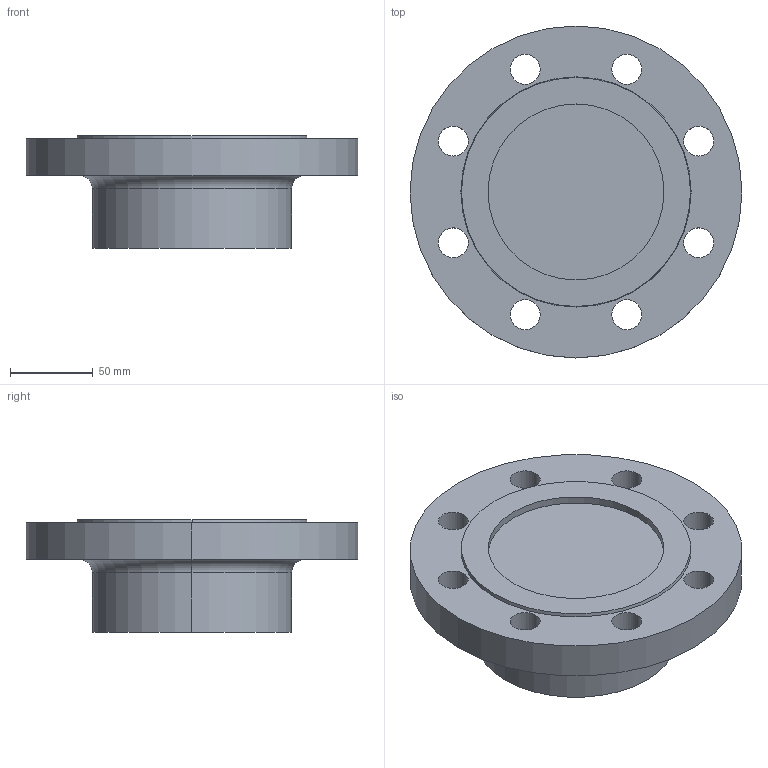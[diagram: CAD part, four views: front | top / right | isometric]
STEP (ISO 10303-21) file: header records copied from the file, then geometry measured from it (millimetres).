
FILE_DESCRIPTION (( 'STEP AP214' ), '1' );
FILE_NAME ('PN40 DN80 Type 21(i) - Type G Face.STEP', '2019-01-01T19:33:28', ( '' ), ( '' ), 'SwSTEP 2.0', 'SolidWorks 2019', '' );
FILE_SCHEMA (( 'AUTOMOTIVE_DESIGN' ));
Length unit declared in the file: millimetre
Products named in the file (1): PN40 DN80 Type 21(i) - Type G Face
Bounding box: 200 x 200 x 68 mm (x, y, z)
Volume: 1139680.2 mm3; surface area: 100085.5 mm2
Topology: 1 solids, 1 shells, 31 faces, 76 edges, 50 vertices
Faces by surface type: cylinder 22, plane 5, torus 2, cone 2
Entity records: 1012 total; most frequent: DIRECTION 192, CARTESIAN_POINT 158, ORIENTED_EDGE 152, AXIS2_PLACEMENT_3D 84, EDGE_CURVE 76, CIRCLE 52, EDGE_LOOP 50, VERTEX_POINT 50
